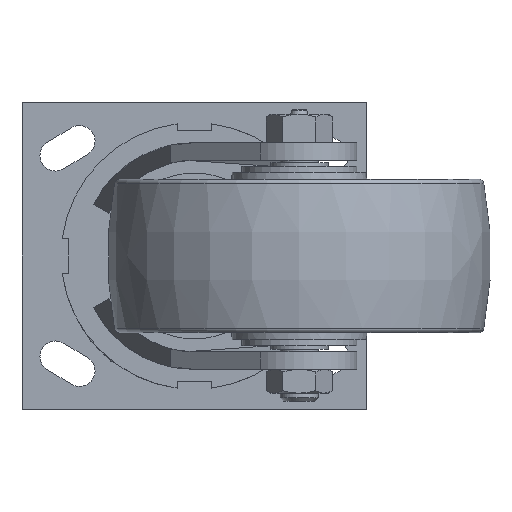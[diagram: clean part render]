
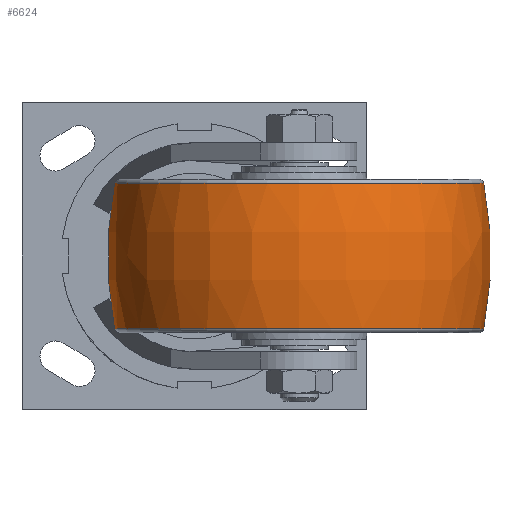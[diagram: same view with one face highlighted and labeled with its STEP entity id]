
A CAD part, front view. The second image highlights one B-rep face of the part: STEP entity #6624.
In plain terms, the highlighted free-form (B-spline) face has degree [3, 3] with [4, 7] control points.
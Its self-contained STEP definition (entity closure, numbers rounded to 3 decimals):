
#40 = CARTESIAN_POINT ( 'NONE',  ( 64.283, -128.566, -8.155 ) ) ;
#139 = ORIENTED_EDGE ( 'NONE', *, *, #6054, .F. ) ;
#631 = CIRCLE ( 'NONE', #5285, 61.18 ) ;
#834 = CARTESIAN_POINT ( 'NONE',  ( -61.18, 122.359, -24.166 ) ) ;
#879 = CARTESIAN_POINT ( 'NONE',  ( -64.283, 128.566, -8.155 ) ) ;
#917 = CARTESIAN_POINT ( 'NONE',  ( 61.18, 0., 24.166 ) ) ;
#992 = CARTESIAN_POINT ( 'NONE',  ( 61.18, -122.359, 24.166 ) ) ;
#1098 = CARTESIAN_POINT ( 'NONE',  ( -64.283, 0., -8.155 ) ) ;
#1550 = CARTESIAN_POINT ( 'NONE',  ( 64.283, 0., 8.155 ) ) ;
#1763 = CARTESIAN_POINT ( 'NONE',  ( -64.283, 0., -8.155 ) ) ;
#1921 = CARTESIAN_POINT ( 'NONE',  ( -64.283, 128.566, 8.155 ) ) ;
#2163 =( BOUNDED_CURVE ( )  B_SPLINE_CURVE ( 3, ( #7612, #1098, #11185, #3074 ),
 .UNSPECIFIED., .F., .T. ) 
 B_SPLINE_CURVE_WITH_KNOTS ( ( 4, 4 ),
 ( 0., 6.283 ),
 .UNSPECIFIED. ) 
 CURVE ( )  GEOMETRIC_REPRESENTATION_ITEM ( )  RATIONAL_B_SPLINE_CURVE ( ( 1., 0.988, 0.988, 1. ) ) 
 REPRESENTATION_ITEM ( '' )  );
#2570 = VERTEX_POINT ( 'NONE', #6973 ) ;
#2783 = CARTESIAN_POINT ( 'NONE',  ( 64.283, 128.566, 8.155 ) ) ;
#2797 = EDGE_CURVE ( 'NONE', #5111, #6169, #2163, .T. ) ;
#3005 = DIRECTION ( 'NONE',  ( 0., 0., -1. ) ) ;
#3074 = CARTESIAN_POINT ( 'NONE',  ( -61.18, 0., 24.166 ) ) ;
#3416 = CARTESIAN_POINT ( 'NONE',  ( -61.18, 0., -24.166 ) ) ;
#3535 = ORIENTED_EDGE ( 'NONE', *, *, #11045, .T. ) ;
#3575 = CARTESIAN_POINT ( 'NONE',  ( 61.18, -122.359, -24.166 ) ) ;
#3803 = CARTESIAN_POINT ( 'NONE',  ( 0., 0., -24.166 ) ) ;
#3963 = CARTESIAN_POINT ( 'NONE',  ( 61.18, 0., -24.166 ) ) ;
#4014 = DIRECTION ( 'NONE',  ( -1., 0., 0. ) ) ;
#4474 = FACE_OUTER_BOUND ( 'NONE', #8044, .T. ) ;
#4587 = CARTESIAN_POINT ( 'NONE',  ( -64.283, 0., -8.155 ) ) ;
#4897 = CARTESIAN_POINT ( 'NONE',  ( 0., 0., 24.166 ) ) ;
#4948 =( BOUNDED_SURFACE ( )  B_SPLINE_SURFACE ( 3, 3, ( 
 ( #11734, #834, #9263, #8271, #3575, #10928, #8149 ),
 ( #1763, #879, #9947, #10848, #40, #10967, #4587 ),
 ( #6386, #1921, #2783, #11771, #10805, #7244, #6424 ),
 ( #9068, #10887, #7209, #917, #992, #7287, #5541 ) ),
 .UNSPECIFIED., .F., .T., .T. ) 
 B_SPLINE_SURFACE_WITH_KNOTS ( ( 4, 4 ),
 ( 4, 3, 4 ),
 ( 0., 6.283 ),
 ( -0.191, 0., 0.191 ),
 .UNSPECIFIED. ) 
 GEOMETRIC_REPRESENTATION_ITEM ( )  RATIONAL_B_SPLINE_SURFACE ( (
 ( 1., 0.333, 0.333, 1., 0.333, 0.333, 1.),
 ( 0.988, 0.329, 0.329, 0.988, 0.329, 0.329, 0.988),
 ( 0.988, 0.329, 0.329, 0.988, 0.329, 0.329, 0.988),
 ( 1., 0.333, 0.333, 1., 0.333, 0.333, 1.) ) ) 
 REPRESENTATION_ITEM ( '' )  SURFACE ( )  );
#5111 = VERTEX_POINT ( 'NONE', #3416 ) ;
#5285 = AXIS2_PLACEMENT_3D ( 'NONE', #3803, #3005, #10122 ) ;
#5541 = CARTESIAN_POINT ( 'NONE',  ( -61.18, 0., 24.166 ) ) ;
#6054 = EDGE_CURVE ( 'NONE', #5111, #6117, #631, .T. ) ;
#6117 = VERTEX_POINT ( 'NONE', #3963 ) ;
#6169 = VERTEX_POINT ( 'NONE', #6696 ) ;
#6386 = CARTESIAN_POINT ( 'NONE',  ( -64.283, 0., 8.155 ) ) ;
#6424 = CARTESIAN_POINT ( 'NONE',  ( -64.283, 0., 8.155 ) ) ;
#6624 = ADVANCED_FACE ( 'NONE', ( #4474 ), #4948, .T. ) ;
#6696 = CARTESIAN_POINT ( 'NONE',  ( -61.18, 0., 24.166 ) ) ;
#6973 = CARTESIAN_POINT ( 'NONE',  ( 61.18, 0., 24.166 ) ) ;
#7209 = CARTESIAN_POINT ( 'NONE',  ( 61.18, 122.359, 24.166 ) ) ;
#7244 = CARTESIAN_POINT ( 'NONE',  ( -64.283, -128.566, 8.155 ) ) ;
#7287 = CARTESIAN_POINT ( 'NONE',  ( -61.18, -122.359, 24.166 ) ) ;
#7612 = CARTESIAN_POINT ( 'NONE',  ( -61.18, 0., -24.166 ) ) ;
#7789 = AXIS2_PLACEMENT_3D ( 'NONE', #4897, #8498, #4014 ) ;
#8001 = CARTESIAN_POINT ( 'NONE',  ( 61.18, 0., 24.166 ) ) ;
#8044 = EDGE_LOOP ( 'NONE', ( #11014, #139, #10554, #3535 ) ) ;
#8095 = CIRCLE ( 'NONE', #7789, 61.18 ) ;
#8149 = CARTESIAN_POINT ( 'NONE',  ( -61.18, 0., -24.166 ) ) ;
#8271 = CARTESIAN_POINT ( 'NONE',  ( 61.18, 0., -24.166 ) ) ;
#8498 = DIRECTION ( 'NONE',  ( 0., 0., -1. ) ) ;
#8500 =( BOUNDED_CURVE ( )  B_SPLINE_CURVE ( 3, ( #8921, #8809, #1550, #8001 ),
 .UNSPECIFIED., .F., .T. ) 
 B_SPLINE_CURVE_WITH_KNOTS ( ( 4, 4 ),
 ( 0., 6.283 ),
 .UNSPECIFIED. ) 
 CURVE ( )  GEOMETRIC_REPRESENTATION_ITEM ( )  RATIONAL_B_SPLINE_CURVE ( ( 1., 0.988, 0.988, 1. ) ) 
 REPRESENTATION_ITEM ( '' )  );
#8809 = CARTESIAN_POINT ( 'NONE',  ( 64.283, 0., -8.155 ) ) ;
#8921 = CARTESIAN_POINT ( 'NONE',  ( 61.18, 0., -24.166 ) ) ;
#9068 = CARTESIAN_POINT ( 'NONE',  ( -61.18, 0., 24.166 ) ) ;
#9263 = CARTESIAN_POINT ( 'NONE',  ( 61.18, 122.359, -24.166 ) ) ;
#9947 = CARTESIAN_POINT ( 'NONE',  ( 64.283, 128.566, -8.155 ) ) ;
#10122 = DIRECTION ( 'NONE',  ( -1., 0., 0. ) ) ;
#10554 = ORIENTED_EDGE ( 'NONE', *, *, #2797, .T. ) ;
#10805 = CARTESIAN_POINT ( 'NONE',  ( 64.283, -128.566, 8.155 ) ) ;
#10848 = CARTESIAN_POINT ( 'NONE',  ( 64.283, 0., -8.155 ) ) ;
#10887 = CARTESIAN_POINT ( 'NONE',  ( -61.18, 122.359, 24.166 ) ) ;
#10928 = CARTESIAN_POINT ( 'NONE',  ( -61.18, -122.359, -24.166 ) ) ;
#10967 = CARTESIAN_POINT ( 'NONE',  ( -64.283, -128.566, -8.155 ) ) ;
#11014 = ORIENTED_EDGE ( 'NONE', *, *, #11748, .F. ) ;
#11045 = EDGE_CURVE ( 'NONE', #6169, #2570, #8095, .T. ) ;
#11185 = CARTESIAN_POINT ( 'NONE',  ( -64.283, 0., 8.155 ) ) ;
#11734 = CARTESIAN_POINT ( 'NONE',  ( -61.18, 0., -24.166 ) ) ;
#11748 = EDGE_CURVE ( 'NONE', #6117, #2570, #8500, .T. ) ;
#11771 = CARTESIAN_POINT ( 'NONE',  ( 64.283, 0., 8.155 ) ) ;
